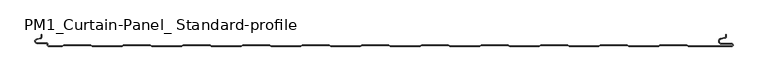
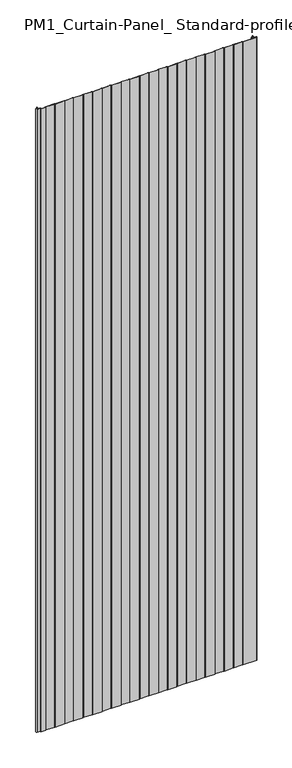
"""IFC4 building model written with IfcOpenShell, lengths in millimetres: plate geometry, PM1_Curtain-Panel_ Standard-profile : ACH_PM1_Acoustic-Sectioning-Panel_50M."""

from ifc_helpers import new_model, si_unit, frame, origin, place, context, project, spatial, polyline, circle_curve, source, transform, mapped, element, save
from ifc_brep_helpers import plane_surface, cylinder_surface, revolved_surface, advanced_brep


def pm1_curtain_panel_standard_profile_95d5dc12(model_context):
    return source(origin(), model_context, "Body", "AdvancedBrep", [
        advanced_brep(
        [(-562.4, -50.0, 3500.0), (-539.3999999, -50.0, 3500.0), (-536.8019223, -48.5, 3500.0), (-492.0019247, -48.5, 3500.0), (-489.4038471, -50.0, 3500.0), (-439.3999999, -50.0, 3500.0), (-436.8019223, -48.5, 3500.0), (-392.0019247, -48.5, 3500.0), (-389.4038471, -50.0, 3500.0), (-339.3999999, -50.0, 3500.0), (-336.8019223, -48.5, 3500.0), (-292.0019247, -48.5, 3500.0), (-289.4038471, -50.0, 3500.0), (-239.3999999, -50.0, 3500.0), (-236.8019223, -48.5, 3500.0), (-192.0019247, -48.5, 3500.0), (-189.4038471, -50.0, 3500.0), (-139.3999999, -50.0, 3500.0), (-136.8019223, -48.5, 3500.0), (-92.0019247, -48.5, 3500.0), (-89.4038471, -50.0, 3500.0), (-39.3999999, -50.0, 3500.0), (-36.8019223, -48.5, 3500.0), (7.9980753, -48.5, 3500.0), (10.5961529, -50.0, 3500.0), (60.6000001, -50.0, 3500.0), (63.1980777, -48.5, 3500.0), (107.9980753, -48.5, 3500.0), (110.5961529, -50.0, 3500.0), (160.6000001, -50.0, 3500.0), (163.1980777, -48.5, 3500.0), (207.9980753, -48.5, 3500.0), (210.5961529, -50.0, 3500.0), (260.6000001, -50.0, 3500.0), (263.1980777, -48.5, 3500.0), (307.9980753, -48.5, 3500.0), (310.5961529, -50.0, 3500.0), (360.6000001, -50.0, 3500.0), (363.1980777, -48.5, 3500.0), (407.9980753, -48.5, 3500.0), (410.5961529, -50.0, 3500.0), (460.6000001, -50.0, 3500.0), (463.1980777, -48.5, 3500.0), (507.9980753, -48.5, 3500.0), (510.5961529, -50.0, 3500.0), (583.1, -50.0, 3500.0), (585.6, -47.5, 3500.0), (583.1, -45.0, 3500.0), (566.1, -45.0, 3500.0), (565.4054075, -37.060769, 3500.0), (571.8514851, -35.924152, 3500.0), (574.0, -33.363652, 3500.0), (574.0, -30.0, 3500.0), (573.2, -30.0, 3500.0), (573.2, -33.363652, 3500.0), (571.7125666, -35.136306, 3500.0), (565.266489, -36.2729229, 3500.0), (566.1, -45.8, 3500.0), (583.1, -45.8, 3500.0), (583.1, -49.2, 3500.0), (510.8105122, -49.2, 3500.0), (508.2124346, -47.7, 3500.0), (462.9837184, -47.7, 3500.0), (460.3856408, -49.2, 3500.0), (410.8105122, -49.2, 3500.0), (408.2124346, -47.7, 3500.0), (362.9837184, -47.7, 3500.0), (360.3856408, -49.2, 3500.0), (310.8105122, -49.2, 3500.0), (308.2124346, -47.7, 3500.0), (262.9837184, -47.7, 3500.0), (260.3856408, -49.2, 3500.0), (210.8105122, -49.2, 3500.0), (208.2124346, -47.7, 3500.0), (162.9837184, -47.7, 3500.0), (160.3856408, -49.2, 3500.0), (110.8105122, -49.2, 3500.0), (108.2124346, -47.7, 3500.0), (62.9837184, -47.7, 3500.0), (60.3856408, -49.2, 3500.0), (10.8105122, -49.2, 3500.0), (8.2124346, -47.7, 3500.0), (-37.0162816, -47.7, 3500.0), (-39.6143592, -49.2, 3500.0), (-89.1894878, -49.2, 3500.0), (-91.7875654, -47.7, 3500.0), (-137.0162816, -47.7, 3500.0), (-139.6143592, -49.2, 3500.0), (-189.1894878, -49.2, 3500.0), (-191.7875654, -47.7, 3500.0), (-237.0162816, -47.7, 3500.0), (-239.6143592, -49.2, 3500.0), (-289.1894878, -49.2, 3500.0), (-291.7875654, -47.7, 3500.0), (-337.0162816, -47.7, 3500.0), (-339.6143592, -49.2, 3500.0), (-389.1894878, -49.2, 3500.0), (-391.7875654, -47.7, 3500.0), (-437.0162816, -47.7, 3500.0), (-439.6143592, -49.2, 3500.0), (-489.1894878, -49.2, 3500.0), (-491.7875654, -47.7, 3500.0), (-537.0162816, -47.7, 3500.0), (-539.6143592, -49.2, 3500.0), (-562.4, -49.2, 3500.0), (-563.6, -48.0, 3500.0), (-563.6, -46.6, 3500.0), (-566.4, -43.8, 3500.0), (-581.9, -43.8, 3500.0), (-582.529863, -38.2717638, 3500.0), (-576.370137, -36.849679, 3500.0), (-574.2, -34.121443, 3500.0), (-574.2, -30.0, 3500.0), (-575.0, -30.0, 3500.0), (-575.0, -34.121443, 3500.0), (-576.5500978, -36.0701831, 3500.0), (-582.7098239, -37.492268, 3500.0), (-581.9, -44.6, 3500.0), (-566.4, -44.6, 3500.0), (-564.4, -46.6, 3500.0), (-564.4, -48.0, 3500.0), (-562.4, -50.0, 0.0), (-564.4, -48.0, 0.0), (-564.4, -46.6, 0.0), (-566.4, -44.6, 0.0), (-581.9, -44.6, 0.0), (-582.7098239, -37.4922678, 0.0), (-576.5500979, -36.070183, 0.0), (-575.0, -34.121443, 0.0), (-575.0, -30.0, 0.0), (-574.2, -30.0, 0.0), (-574.2, -34.121443, 0.0), (-576.370137, -36.8496792, 0.0), (-582.529863, -38.271764, 0.0), (-581.9, -43.8, 0.0), (-566.4, -43.8, 0.0), (-563.6, -46.6, 0.0), (-563.6, -48.0, 0.0), (-562.4, -49.2, 0.0), (-539.6143592, -49.2, 0.0), (-537.0162816, -47.7, 0.0), (-491.7875654, -47.7, 0.0), (-489.1894878, -49.2, 0.0), (-439.6143592, -49.2, 0.0), (-437.0162816, -47.7, 0.0), (-391.7875654, -47.7, 0.0), (-389.1894878, -49.2, 0.0), (-339.6143592, -49.2, 0.0), (-337.0162816, -47.7, 0.0), (-291.7875654, -47.7, 0.0), (-289.1894878, -49.2, 0.0), (-239.6143592, -49.2, 0.0), (-237.0162816, -47.7, 0.0), (-191.7875654, -47.7, 0.0), (-189.1894878, -49.2, 0.0), (-139.6143592, -49.2, 0.0), (-137.0162816, -47.7, 0.0), (-91.7875654, -47.7, 0.0), (-89.1894878, -49.2, 0.0), (-39.6143592, -49.2, 0.0), (-37.0162816, -47.7, 0.0), (8.2124346, -47.7, 0.0), (10.8105122, -49.2, 0.0), (60.3856408, -49.2, 0.0), (62.9837184, -47.7, 0.0), (108.2124346, -47.7, 0.0), (110.8105122, -49.2, 0.0), (160.3856408, -49.2, 0.0), (162.9837184, -47.7, 0.0), (208.2124346, -47.7, 0.0), (210.8105122, -49.2, 0.0), (260.3856408, -49.2, 0.0), (262.9837184, -47.7, 0.0), (308.2124346, -47.7, 0.0), (310.8105122, -49.2, 0.0), (360.3856408, -49.2, 0.0), (362.9837184, -47.7, 0.0), (408.2124346, -47.7, 0.0), (410.8105122, -49.2, 0.0), (460.3856408, -49.2, 0.0), (462.9837184, -47.7, 0.0), (508.2124346, -47.7, 0.0), (510.8105122, -49.2, 0.0), (583.1, -49.2, 0.0), (583.1, -45.8, 0.0), (566.1, -45.8, 0.0), (565.266489, -36.2729227, 0.0), (571.7125666, -35.1363058, 0.0), (573.2, -33.363652, 0.0), (573.2, -30.0, 0.0), (574.0, -30.0, 0.0), (574.0, -33.363652, 0.0), (571.8514851, -35.9241522, 0.0), (565.4054075, -37.0607691, 0.0), (566.1, -45.0, 0.0), (583.1, -45.0, 0.0), (585.6, -47.5, 0.0), (583.1, -50.0, 0.0), (510.5961529, -50.0, 0.0), (507.9980753, -48.5, 0.0), (463.1980777, -48.5, 0.0), (460.6000001, -50.0, 0.0), (410.5961529, -50.0, 0.0), (407.9980753, -48.5, 0.0), (363.1980777, -48.5, 0.0), (360.6000001, -50.0, 0.0), (310.5961529, -50.0, 0.0), (307.9980753, -48.5, 0.0), (263.1980777, -48.5, 0.0), (260.6000001, -50.0, 0.0), (210.5961529, -50.0, 0.0), (207.9980753, -48.5, 0.0), (163.1980777, -48.5, 0.0), (160.6000001, -50.0, 0.0), (110.5961529, -50.0, 0.0), (107.9980753, -48.5, 0.0), (63.1980777, -48.5, 0.0), (60.6000001, -50.0, 0.0), (10.5961529, -50.0, 0.0), (7.9980753, -48.5, 0.0), (-36.8019223, -48.5, 0.0), (-39.3999999, -50.0, 0.0), (-89.4038471, -50.0, 0.0), (-92.0019247, -48.5, 0.0), (-136.8019223, -48.5, 0.0), (-139.3999999, -50.0, 0.0), (-189.4038471, -50.0, 0.0), (-192.0019247, -48.5, 0.0), (-236.8019223, -48.5, 0.0), (-239.3999999, -50.0, 0.0), (-289.4038471, -50.0, 0.0), (-292.0019247, -48.5, 0.0), (-336.8019223, -48.5, 0.0), (-339.3999999, -50.0, 0.0), (-389.4038471, -50.0, 0.0), (-392.0019247, -48.5, 0.0), (-436.8019223, -48.5, 0.0), (-439.3999999, -50.0, 0.0), (-489.4038471, -50.0, 0.0), (-492.0019247, -48.5, 0.0), (-536.8019223, -48.5, 0.0), (-539.3999999, -50.0, 0.0)],
        [
            (0, 1),
            (1, 2),
            (2, 3),
            (3, 4),
            (4, 5),
            (5, 6),
            (6, 7),
            (7, 8),
            (8, 9),
            (9, 10),
            (10, 11),
            (11, 12),
            (12, 13),
            (13, 14),
            (14, 15),
            (15, 16),
            (16, 17),
            (17, 18),
            (18, 19),
            (19, 20),
            (20, 21),
            (21, 22),
            (22, 23),
            (23, 24),
            (24, 25),
            (25, 26),
            (26, 27),
            (27, 28),
            (28, 29),
            (29, 30),
            (30, 31),
            (31, 32),
            (32, 33),
            (33, 34),
            (34, 35),
            (35, 36),
            (36, 37),
            (37, 38),
            (38, 39),
            (39, 40),
            (40, 41),
            (41, 42),
            (42, 43),
            (43, 44),
            (44, 45),
            (45, 46, circle_curve(frame((583.1, -47.5, 3500.0), z_axis=(0.0, 0.0, 1.0), x_axis=(1.0, 0.0, 0.0)), 2.5)),
            (46, 47, circle_curve(frame((583.1, -47.5, 3500.0), z_axis=(0.0, 0.0, 1.0), x_axis=(1.0, 0.0, 0.0)), 2.5)),
            (47, 48),
            (48, 49, circle_curve(frame((566.1, -41.0, 3500.0), z_axis=(0.0, 0.0, -1.0), x_axis=(1.0, 0.0, 0.0)), 4.0)),
            (49, 50),
            (50, 51, circle_curve(frame((571.4, -33.363652, 3500.0), z_axis=(0.0, 0.0, 1.0), x_axis=(1.0, 0.0, 0.0)), 2.6)),
            (51, 52),
            (52, 53),
            (53, 54),
            (54, 55, circle_curve(frame((571.4, -33.363652, 3500.0), z_axis=(0.0, 0.0, -1.0), x_axis=(1.0, 0.0, 0.0)), 1.8)),
            (55, 56),
            (56, 57, circle_curve(frame((566.1, -41.0, 3500.0), z_axis=(0.0, 0.0, 1.0), x_axis=(1.0, 0.0, 0.0)), 4.8)),
            (57, 58),
            (58, 59, circle_curve(frame((583.1, -47.5, 3500.0), z_axis=(0.0, 0.0, -1.0), x_axis=(1.0, 0.0, 0.0)), 1.7)),
            (59, 60),
            (60, 61),
            (61, 62),
            (62, 63),
            (63, 64),
            (64, 65),
            (65, 66),
            (66, 67),
            (67, 68),
            (68, 69),
            (69, 70),
            (70, 71),
            (71, 72),
            (72, 73),
            (73, 74),
            (74, 75),
            (75, 76),
            (76, 77),
            (77, 78),
            (78, 79),
            (79, 80),
            (80, 81),
            (81, 82),
            (82, 83),
            (83, 84),
            (84, 85),
            (85, 86),
            (86, 87),
            (87, 88),
            (88, 89),
            (89, 90),
            (90, 91),
            (91, 92),
            (92, 93),
            (93, 94),
            (94, 95),
            (95, 96),
            (96, 97),
            (97, 98),
            (98, 99),
            (99, 100),
            (100, 101),
            (101, 102),
            (102, 103),
            (103, 104),
            (104, 105, circle_curve(frame((-562.4, -48.0, 3500.0), z_axis=(0.0, 0.0, -1.0), x_axis=(1.0, 0.0, 0.0)), 1.2)),
            (105, 106),
            (106, 107, circle_curve(frame((-566.4, -46.6, 3500.0), z_axis=(0.0, 0.0, 1.0), x_axis=(1.0, 0.0, 0.0)), 2.8)),
            (107, 108),
            (108, 109, circle_curve(frame((-581.9, -41.0, 3500.0), z_axis=(0.0, 0.0, -1.0), x_axis=(1.0, 0.0, 0.0)), 2.8)),
            (109, 110),
            (110, 111, circle_curve(frame((-577.0, -34.121443, 3500.0), z_axis=(0.0, 0.0, 1.0), x_axis=(1.0, 0.0, 0.0)), 2.8)),
            (111, 112),
            (112, 113),
            (113, 114),
            (114, 115, circle_curve(frame((-577.0, -34.121443, 3500.0), z_axis=(0.0, 0.0, -1.0), x_axis=(1.0, 0.0, 0.0)), 2.0)),
            (115, 116),
            (116, 117, circle_curve(frame((-581.9, -41.0, 3500.0), z_axis=(0.0, 0.0, 1.0), x_axis=(1.0, 0.0, 0.0)), 3.6)),
            (117, 118),
            (118, 119, circle_curve(frame((-566.4, -46.6, 3500.0), z_axis=(0.0, 0.0, -1.0), x_axis=(1.0, 0.0, 0.0)), 2.0)),
            (119, 120),
            (120, 0, circle_curve(frame((-562.4, -48.0, 3500.0), z_axis=(0.0, 0.0, 1.0), x_axis=(1.0, 0.0, 0.0)), 2.0)),
            (121, 122, circle_curve(frame((-562.4, -48.0, 0.0), z_axis=(0.0, 0.0, -1.0), x_axis=(1.0, 0.0, 0.0)), 2.0)),
            (122, 123),
            (123, 124, circle_curve(frame((-566.4, -46.6, 0.0), z_axis=(0.0, 0.0, 1.0), x_axis=(1.0, 0.0, 0.0)), 2.0)),
            (124, 125),
            (125, 126, circle_curve(frame((-581.9, -41.0, 0.0), z_axis=(0.0, 0.0, -1.0), x_axis=(1.0, 0.0, 0.0)), 3.6)),
            (126, 127),
            (127, 128, circle_curve(frame((-577.0, -34.121443, 0.0), z_axis=(0.0, 0.0, 1.0), x_axis=(1.0, 0.0, 0.0)), 2.0)),
            (128, 129),
            (129, 130),
            (130, 131),
            (131, 132, circle_curve(frame((-577.0, -34.121443, 0.0), z_axis=(0.0, 0.0, -1.0), x_axis=(1.0, 0.0, 0.0)), 2.8)),
            (132, 133),
            (133, 134, circle_curve(frame((-581.9, -41.0, 0.0), z_axis=(0.0, 0.0, 1.0), x_axis=(1.0, 0.0, 0.0)), 2.8)),
            (134, 135),
            (135, 136, circle_curve(frame((-566.4, -46.6, 0.0), z_axis=(0.0, 0.0, -1.0), x_axis=(1.0, 0.0, 0.0)), 2.8)),
            (136, 137),
            (137, 138, circle_curve(frame((-562.4, -48.0, 0.0), z_axis=(0.0, 0.0, 1.0), x_axis=(1.0, 0.0, 0.0)), 1.2)),
            (138, 139),
            (139, 140),
            (140, 141),
            (141, 142),
            (142, 143),
            (143, 144),
            (144, 145),
            (145, 146),
            (146, 147),
            (147, 148),
            (148, 149),
            (149, 150),
            (150, 151),
            (151, 152),
            (152, 153),
            (153, 154),
            (154, 155),
            (155, 156),
            (156, 157),
            (157, 158),
            (158, 159),
            (159, 160),
            (160, 161),
            (161, 162),
            (162, 163),
            (163, 164),
            (164, 165),
            (165, 166),
            (166, 167),
            (167, 168),
            (168, 169),
            (169, 170),
            (170, 171),
            (171, 172),
            (172, 173),
            (173, 174),
            (174, 175),
            (175, 176),
            (176, 177),
            (177, 178),
            (178, 179),
            (179, 180),
            (180, 181),
            (181, 182),
            (182, 183),
            (183, 184, circle_curve(frame((583.1, -47.5, 0.0), z_axis=(0.0, 0.0, 1.0), x_axis=(1.0, 0.0, 0.0)), 1.7)),
            (184, 185),
            (185, 186, circle_curve(frame((566.1, -41.0, 0.0), z_axis=(0.0, 0.0, -1.0), x_axis=(1.0, 0.0, 0.0)), 4.8)),
            (186, 187),
            (187, 188, circle_curve(frame((571.4, -33.363652, 0.0), z_axis=(0.0, 0.0, 1.0), x_axis=(1.0, 0.0, 0.0)), 1.8)),
            (188, 189),
            (189, 190),
            (190, 191),
            (191, 192, circle_curve(frame((571.4, -33.363652, 0.0), z_axis=(0.0, 0.0, -1.0), x_axis=(1.0, 0.0, 0.0)), 2.6)),
            (192, 193),
            (193, 194, circle_curve(frame((566.1, -41.0, 0.0), z_axis=(0.0, 0.0, 1.0), x_axis=(1.0, 0.0, 0.0)), 4.0)),
            (194, 195),
            (195, 196, circle_curve(frame((583.1, -47.5, 0.0), z_axis=(0.0, 0.0, -1.0), x_axis=(1.0, 0.0, 0.0)), 2.5)),
            (196, 197, circle_curve(frame((583.1, -47.5, 0.0), z_axis=(0.0, 0.0, -1.0), x_axis=(1.0, 0.0, 0.0)), 2.5)),
            (197, 198),
            (198, 199),
            (199, 200),
            (200, 201),
            (201, 202),
            (202, 203),
            (203, 204),
            (204, 205),
            (205, 206),
            (206, 207),
            (207, 208),
            (208, 209),
            (209, 210),
            (210, 211),
            (211, 212),
            (212, 213),
            (213, 214),
            (214, 215),
            (215, 216),
            (216, 217),
            (217, 218),
            (218, 219),
            (219, 220),
            (220, 221),
            (221, 222),
            (222, 223),
            (223, 224),
            (224, 225),
            (225, 226),
            (226, 227),
            (227, 228),
            (228, 229),
            (229, 230),
            (230, 231),
            (231, 232),
            (232, 233),
            (233, 234),
            (234, 235),
            (235, 236),
            (236, 237),
            (237, 238),
            (238, 239),
            (239, 240),
            (240, 241),
            (241, 121),
            (0, 121),
            (241, 1),
            (240, 2),
            (239, 3),
            (238, 4),
            (237, 5),
            (236, 6),
            (235, 7),
            (234, 8),
            (233, 9),
            (232, 10),
            (231, 11),
            (230, 12),
            (229, 13),
            (228, 14),
            (227, 15),
            (226, 16),
            (225, 17),
            (224, 18),
            (223, 19),
            (222, 20),
            (221, 21),
            (220, 22),
            (219, 23),
            (218, 24),
            (217, 25),
            (216, 26),
            (215, 27),
            (214, 28),
            (213, 29),
            (212, 30),
            (211, 31),
            (210, 32),
            (209, 33),
            (208, 34),
            (207, 35),
            (206, 36),
            (205, 37),
            (204, 38),
            (203, 39),
            (202, 40),
            (201, 41),
            (200, 42),
            (199, 43),
            (198, 44),
            (197, 45),
            (195, 47),
            (194, 48),
            (193, 49),
            (192, 50),
            (191, 51),
            (190, 52),
            (189, 53),
            (188, 54),
            (187, 55),
            (186, 56),
            (185, 57),
            (184, 58),
            (183, 59),
            (182, 60),
            (181, 61),
            (180, 62),
            (179, 63),
            (178, 64),
            (177, 65),
            (176, 66),
            (175, 67),
            (174, 68),
            (173, 69),
            (172, 70),
            (171, 71),
            (170, 72),
            (169, 73),
            (168, 74),
            (167, 75),
            (166, 76),
            (165, 77),
            (164, 78),
            (163, 79),
            (162, 80),
            (161, 81),
            (160, 82),
            (159, 83),
            (158, 84),
            (157, 85),
            (156, 86),
            (155, 87),
            (154, 88),
            (153, 89),
            (152, 90),
            (151, 91),
            (150, 92),
            (149, 93),
            (148, 94),
            (147, 95),
            (146, 96),
            (145, 97),
            (144, 98),
            (143, 99),
            (142, 100),
            (141, 101),
            (140, 102),
            (139, 103),
            (138, 104),
            (137, 105),
            (136, 106),
            (135, 107),
            (134, 108),
            (133, 109),
            (132, 110),
            (131, 111),
            (130, 112),
            (129, 113),
            (128, 114),
            (127, 115),
            (126, 116),
            (125, 117),
            (124, 118),
            (123, 119),
            (122, 120),
        ],
        [
            plane_surface(frame((-575.0, -50.0, 3500.0), z_axis=(0.0, 0.0, 1.0), x_axis=(0.0, 1.0, 0.0))),
            plane_surface(frame((-575.0, -50.0, 0.0), z_axis=(0.0, 0.0, -1.0), x_axis=(0.0, 1.0, 0.0))),
            plane_surface(frame((-562.4, -50.0, 3500.0), z_axis=(0.0, -1.0, 0.0), x_axis=(0.0, 0.0, -1.0))),
            plane_surface(frame((-539.3999999, -50.0, 3500.0), z_axis=(0.49999979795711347, -0.8660255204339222, 0.0), x_axis=(0.0, 0.0, -1.0))),
            plane_surface(frame((-536.8019223, -48.5, 3500.0), z_axis=(0.0, -1.0, 0.0), x_axis=(0.0, 0.0, -1.0))),
            plane_surface(frame((-492.0019247, -48.5, 3500.0), z_axis=(-0.49999979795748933, -0.8660255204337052, 0.0), x_axis=(0.0, 0.0, -1.0))),
            plane_surface(frame((-489.4038471, -50.0, 3500.0), z_axis=(0.0, -1.0, 0.0), x_axis=(0.0, 0.0, -1.0))),
            plane_surface(frame((-439.3999999, -50.0, 3500.0), z_axis=(0.49999979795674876, -0.8660255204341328, 0.0), x_axis=(0.0, 0.0, -1.0))),
            plane_surface(frame((-436.8019223, -48.5, 3500.0), z_axis=(0.0, -1.0, 0.0), x_axis=(0.0, 0.0, -1.0))),
            plane_surface(frame((-392.0019247, -48.5, 3500.0), z_axis=(-0.4999997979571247, -0.8660255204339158, 0.0), x_axis=(0.0, 0.0, -1.0))),
            plane_surface(frame((-389.4038471, -50.0, 3500.0), z_axis=(0.0, -1.0, 0.0), x_axis=(0.0, 0.0, -1.0))),
            plane_surface(frame((-339.3999999, -50.0, 3500.0), z_axis=(0.49999979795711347, -0.8660255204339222, 0.0), x_axis=(0.0, 0.0, -1.0))),
            plane_surface(frame((-336.8019223, -48.5, 3500.0), z_axis=(0.0, -1.0, 0.0), x_axis=(0.0, 0.0, -1.0))),
            plane_surface(frame((-292.0019247, -48.5, 3500.0), z_axis=(-0.4999997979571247, -0.8660255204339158, 0.0), x_axis=(0.0, 0.0, -1.0))),
            plane_surface(frame((-289.4038471, -50.0, 3500.0), z_axis=(0.0, -1.0, 0.0), x_axis=(0.0, 0.0, -1.0))),
            plane_surface(frame((-239.3999999, -50.0, 3500.0), z_axis=(0.49999979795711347, -0.8660255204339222, 0.0), x_axis=(0.0, 0.0, -1.0))),
            plane_surface(frame((-236.8019223, -48.5, 3500.0), z_axis=(0.0, -1.0, 0.0), x_axis=(0.0, 0.0, -1.0))),
            plane_surface(frame((-192.0019247, -48.5, 3500.0), z_axis=(-0.49999979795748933, -0.8660255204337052, 0.0), x_axis=(0.0, 0.0, -1.0))),
            plane_surface(frame((-189.4038471, -50.0, 3500.0), z_axis=(0.0, -1.0, 0.0), x_axis=(0.0, 0.0, -1.0))),
            plane_surface(frame((-139.3999999, -50.0, 3500.0), z_axis=(0.49999979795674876, -0.8660255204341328, 0.0), x_axis=(0.0, 0.0, -1.0))),
            plane_surface(frame((-136.8019223, -48.5, 3500.0), z_axis=(0.0, -1.0, 0.0), x_axis=(0.0, 0.0, -1.0))),
            plane_surface(frame((-92.0019247, -48.5, 3500.0), z_axis=(-0.4999997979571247, -0.8660255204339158, 0.0), x_axis=(0.0, 0.0, -1.0))),
            plane_surface(frame((-89.4038471, -50.0, 3500.0), z_axis=(0.0, -1.0, 0.0), x_axis=(0.0, 0.0, -1.0))),
            plane_surface(frame((-39.3999999, -50.0, 3500.0), z_axis=(0.49999979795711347, -0.8660255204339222, 0.0), x_axis=(0.0, 0.0, -1.0))),
            plane_surface(frame((-36.8019223, -48.5, 3500.0), z_axis=(0.0, -1.0, 0.0), x_axis=(0.0, 0.0, -1.0))),
            plane_surface(frame((7.9980753, -48.5, 3500.0), z_axis=(-0.4999997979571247, -0.8660255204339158, 0.0), x_axis=(0.0, 0.0, -1.0))),
            plane_surface(frame((10.5961529, -50.0, 3500.0), z_axis=(0.0, -1.0, 0.0), x_axis=(0.0, 0.0, -1.0))),
            plane_surface(frame((60.6000001, -50.0, 3500.0), z_axis=(0.49999979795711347, -0.8660255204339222, 0.0), x_axis=(0.0, 0.0, -1.0))),
            plane_surface(frame((63.1980777, -48.5, 3500.0), z_axis=(0.0, -1.0, 0.0), x_axis=(0.0, 0.0, -1.0))),
            plane_surface(frame((107.9980753, -48.5, 3500.0), z_axis=(-0.49999979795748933, -0.8660255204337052, 0.0), x_axis=(0.0, 0.0, -1.0))),
            plane_surface(frame((110.5961529, -50.0, 3500.0), z_axis=(0.0, -1.0, 0.0), x_axis=(0.0, 0.0, -1.0))),
            plane_surface(frame((160.6000001, -50.0, 3500.0), z_axis=(0.49999979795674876, -0.8660255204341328, 0.0), x_axis=(0.0, 0.0, -1.0))),
            plane_surface(frame((163.1980777, -48.5, 3500.0), z_axis=(0.0, -1.0, 0.0), x_axis=(0.0, 0.0, -1.0))),
            plane_surface(frame((207.9980753, -48.5, 3500.0), z_axis=(-0.4999997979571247, -0.8660255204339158, 0.0), x_axis=(0.0, 0.0, -1.0))),
            plane_surface(frame((210.5961529, -50.0, 3500.0), z_axis=(0.0, -1.0, 0.0), x_axis=(0.0, 0.0, -1.0))),
            plane_surface(frame((260.6000001, -50.0, 3500.0), z_axis=(0.49999979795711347, -0.8660255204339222, 0.0), x_axis=(0.0, 0.0, -1.0))),
            plane_surface(frame((263.1980777, -48.5, 3500.0), z_axis=(0.0, -1.0, 0.0), x_axis=(0.0, 0.0, -1.0))),
            plane_surface(frame((307.9980753, -48.5, 3500.0), z_axis=(-0.4999997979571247, -0.8660255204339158, 0.0), x_axis=(0.0, 0.0, -1.0))),
            plane_surface(frame((310.5961529, -50.0, 3500.0), z_axis=(0.0, -1.0, 0.0), x_axis=(0.0, 0.0, -1.0))),
            plane_surface(frame((360.6000001, -50.0, 3500.0), z_axis=(0.49999979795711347, -0.8660255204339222, 0.0), x_axis=(0.0, 0.0, -1.0))),
            plane_surface(frame((363.1980777, -48.5, 3500.0), z_axis=(0.0, -1.0, 0.0), x_axis=(0.0, 0.0, -1.0))),
            plane_surface(frame((407.9980753, -48.5, 3500.0), z_axis=(-0.49999979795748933, -0.8660255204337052, 0.0), x_axis=(0.0, 0.0, -1.0))),
            plane_surface(frame((410.5961529, -50.0, 3500.0), z_axis=(0.0, -1.0, 0.0), x_axis=(0.0, 0.0, -1.0))),
            plane_surface(frame((460.6000001, -50.0, 3500.0), z_axis=(0.49999979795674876, -0.8660255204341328, 0.0), x_axis=(0.0, 0.0, -1.0))),
            plane_surface(frame((463.1980777, -48.5, 3500.0), z_axis=(0.0, -1.0, 0.0), x_axis=(0.0, 0.0, -1.0))),
            plane_surface(frame((507.9980753, -48.5, 3500.0), z_axis=(-0.4999997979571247, -0.8660255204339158, 0.0), x_axis=(0.0, 0.0, -1.0))),
            plane_surface(frame((560.890897, -50.0, 3500.0), z_axis=(0.0, -1.0, 0.0), x_axis=(0.0, 0.0, -1.0))),
            cylinder_surface(frame((583.1, -47.5, 3500.0), z_axis=(0.0, 0.0, 1.0), x_axis=(1.0, 0.0, 0.0)), 2.5),
            plane_surface(frame((583.1, -45.0, 3500.0), z_axis=(0.0, 1.0, 0.0), x_axis=(0.0, 0.0, -1.0))),
            revolved_surface(polyline([(570.1, -41.0, 0.0), (570.1, -41.0, 3500.0)]), (566.1, -41.0, 3500.0), (0.0, 0.0, -1.0)),
            plane_surface(frame((565.4054075, -37.0607691, 3500.0), z_axis=(0.17364813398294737, -0.9848077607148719, 0.0), x_axis=(0.0, 0.0, -1.0))),
            cylinder_surface(frame((571.4, -33.363652, 3500.0), z_axis=(0.0, 0.0, 1.0), x_axis=(1.0, 0.0, 0.0)), 2.6),
            plane_surface(frame((574.0, -33.363652, 3500.0), z_axis=(1.0, 0.0, 0.0), x_axis=(0.0, 0.0, -1.0))),
            plane_surface(frame((574.0, -30.0, 3500.0), z_axis=(0.0, 1.0, 0.0), x_axis=(0.0, 0.0, -1.0))),
            plane_surface(frame((573.2, -30.0, 3500.0), z_axis=(-1.0, 0.0, 0.0), x_axis=(0.0, 0.0, -1.0))),
            revolved_surface(polyline([(573.1999999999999, -33.363652, 0.0), (573.1999999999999, -33.363652, 3500.0)]), (571.4, -33.363652, 3500.0), (0.0, 0.0, -1.0)),
            plane_surface(frame((571.7125666, -35.1363058, 3500.0), z_axis=(-0.17364813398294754, 0.9848077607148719, 0.0), x_axis=(0.0, 0.0, -1.0))),
            cylinder_surface(frame((566.1, -41.0, 3500.0), z_axis=(0.0, 0.0, 1.0), x_axis=(1.0, 0.0, 0.0)), 4.8),
            plane_surface(frame((566.1, -45.8, 3500.0), z_axis=(0.0, -1.0, 0.0), x_axis=(0.0, 0.0, -1.0))),
            revolved_surface(polyline([(584.8000000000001, -47.5, 0.0), (584.8000000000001, -47.5, 3500.0)]), (583.1, -47.5, 3500.0), (0.0, 0.0, -1.0)),
            plane_surface(frame((560.890897, -49.2, 3500.0), z_axis=(0.0, 1.0, 0.0), x_axis=(0.0, 0.0, -1.0))),
            plane_surface(frame((510.8105122, -49.2, 3500.0), z_axis=(0.49999979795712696, 0.8660255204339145, 0.0), x_axis=(0.0, 0.0, -1.0))),
            plane_surface(frame((508.2124346, -47.7, 3500.0), z_axis=(0.0, 1.0, 0.0), x_axis=(0.0, 0.0, -1.0))),
            plane_surface(frame((462.9837184, -47.7, 3500.0), z_axis=(-0.4999997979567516, 0.8660255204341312, 0.0), x_axis=(0.0, 0.0, -1.0))),
            plane_surface(frame((460.3856408, -49.2, 3500.0), z_axis=(0.0, 1.0, 0.0), x_axis=(0.0, 0.0, -1.0))),
            plane_surface(frame((410.8105122, -49.2, 3500.0), z_axis=(0.4999997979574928, 0.8660255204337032, 0.0), x_axis=(0.0, 0.0, -1.0))),
            plane_surface(frame((408.2124346, -47.7, 3500.0), z_axis=(0.0, 1.0, 0.0), x_axis=(0.0, 0.0, -1.0))),
            plane_surface(frame((362.9837184, -47.7, 3500.0), z_axis=(-0.49999979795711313, 0.8660255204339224, 0.0), x_axis=(0.0, 0.0, -1.0))),
            plane_surface(frame((360.3856408, -49.2, 3500.0), z_axis=(0.0, 1.0, 0.0), x_axis=(0.0, 0.0, -1.0))),
            plane_surface(frame((310.8105122, -49.2, 3500.0), z_axis=(0.4999997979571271, 0.8660255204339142, 0.0), x_axis=(0.0, 0.0, -1.0))),
            plane_surface(frame((308.2124346, -47.7, 3500.0), z_axis=(0.0, 1.0, 0.0), x_axis=(0.0, 0.0, -1.0))),
            plane_surface(frame((262.9837184, -47.7, 3500.0), z_axis=(-0.49999979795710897, 0.8660255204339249, 0.0), x_axis=(0.0, 0.0, -1.0))),
            plane_surface(frame((260.3856408, -49.2, 3500.0), z_axis=(0.0, 1.0, 0.0), x_axis=(0.0, 0.0, -1.0))),
            plane_surface(frame((210.8105122, -49.2, 3500.0), z_axis=(0.4999997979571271, 0.8660255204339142, 0.0), x_axis=(0.0, 0.0, -1.0))),
            plane_surface(frame((208.2124346, -47.7, 3500.0), z_axis=(0.0, 1.0, 0.0), x_axis=(0.0, 0.0, -1.0))),
            plane_surface(frame((162.9837184, -47.7, 3500.0), z_axis=(-0.4999997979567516, 0.8660255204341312, 0.0), x_axis=(0.0, 0.0, -1.0))),
            plane_surface(frame((160.3856408, -49.2, 3500.0), z_axis=(0.0, 1.0, 0.0), x_axis=(0.0, 0.0, -1.0))),
            plane_surface(frame((110.8105122, -49.2, 3500.0), z_axis=(0.49999979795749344, 0.8660255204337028, 0.0), x_axis=(0.0, 0.0, -1.0))),
            plane_surface(frame((108.2124346, -47.7, 3500.0), z_axis=(0.0, 1.0, 0.0), x_axis=(0.0, 0.0, -1.0))),
            plane_surface(frame((62.9837184, -47.7, 3500.0), z_axis=(-0.49999979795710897, 0.8660255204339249, 0.0), x_axis=(0.0, 0.0, -1.0))),
            plane_surface(frame((60.3856408, -49.2, 3500.0), z_axis=(0.0, 1.0, 0.0), x_axis=(0.0, 0.0, -1.0))),
            plane_surface(frame((10.8105122, -49.2, 3500.0), z_axis=(0.4999997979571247, 0.8660255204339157, 0.0), x_axis=(0.0, 0.0, -1.0))),
            plane_surface(frame((8.2124346, -47.7, 3500.0), z_axis=(0.0, 1.0, 0.0), x_axis=(0.0, 0.0, -1.0))),
            plane_surface(frame((-37.0162816, -47.7, 3500.0), z_axis=(-0.49999979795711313, 0.8660255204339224, 0.0), x_axis=(0.0, 0.0, -1.0))),
            plane_surface(frame((-39.6143592, -49.2, 3500.0), z_axis=(0.0, 1.0, 0.0), x_axis=(0.0, 0.0, -1.0))),
            plane_surface(frame((-89.1894878, -49.2, 3500.0), z_axis=(0.4999997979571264, 0.8660255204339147, 0.0), x_axis=(0.0, 0.0, -1.0))),
            plane_surface(frame((-91.7875654, -47.7, 3500.0), z_axis=(0.0, 1.0, 0.0), x_axis=(0.0, 0.0, -1.0))),
            plane_surface(frame((-137.0162816, -47.7, 3500.0), z_axis=(-0.49999979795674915, 0.8660255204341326, 0.0), x_axis=(0.0, 0.0, -1.0))),
            plane_surface(frame((-139.6143592, -49.2, 3500.0), z_axis=(0.0, 1.0, 0.0), x_axis=(0.0, 0.0, -1.0))),
            plane_surface(frame((-189.1894878, -49.2, 3500.0), z_axis=(0.49999979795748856, 0.8660255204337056, 0.0), x_axis=(0.0, 0.0, -1.0))),
            plane_surface(frame((-191.7875654, -47.7, 3500.0), z_axis=(0.0, 1.0, 0.0), x_axis=(0.0, 0.0, -1.0))),
            plane_surface(frame((-237.0162816, -47.7, 3500.0), z_axis=(-0.4999997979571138, 0.866025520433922, 0.0), x_axis=(0.0, 0.0, -1.0))),
            plane_surface(frame((-239.6143592, -49.2, 3500.0), z_axis=(0.0, 1.0, 0.0), x_axis=(0.0, 0.0, -1.0))),
            plane_surface(frame((-289.1894878, -49.2, 3500.0), z_axis=(0.49999979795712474, 0.8660255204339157, 0.0), x_axis=(0.0, 0.0, -1.0))),
            plane_surface(frame((-291.7875654, -47.7, 3500.0), z_axis=(0.0, 1.0, 0.0), x_axis=(0.0, 0.0, -1.0))),
            plane_surface(frame((-337.0162816, -47.7, 3500.0), z_axis=(-0.49999979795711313, 0.8660255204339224, 0.0), x_axis=(0.0, 0.0, -1.0))),
            plane_surface(frame((-339.6143592, -49.2, 3500.0), z_axis=(0.0, 1.0, 0.0), x_axis=(0.0, 0.0, -1.0))),
            plane_surface(frame((-389.1894878, -49.2, 3500.0), z_axis=(0.49999979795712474, 0.8660255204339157, 0.0), x_axis=(0.0, 0.0, -1.0))),
            plane_surface(frame((-391.7875654, -47.7, 3500.0), z_axis=(0.0, 1.0, 0.0), x_axis=(0.0, 0.0, -1.0))),
            plane_surface(frame((-437.0162816, -47.7, 3500.0), z_axis=(-0.49999979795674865, 0.8660255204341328, 0.0), x_axis=(0.0, 0.0, -1.0))),
            plane_surface(frame((-439.6143592, -49.2, 3500.0), z_axis=(0.0, 1.0, 0.0), x_axis=(0.0, 0.0, -1.0))),
            plane_surface(frame((-489.1894878, -49.2, 3500.0), z_axis=(0.49999979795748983, 0.866025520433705, 0.0), x_axis=(0.0, 0.0, -1.0))),
            plane_surface(frame((-491.7875654, -47.7, 3500.0), z_axis=(0.0, 1.0, 0.0), x_axis=(0.0, 0.0, -1.0))),
            plane_surface(frame((-537.0162816, -47.7, 3500.0), z_axis=(-0.49999979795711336, 0.8660255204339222, 0.0), x_axis=(0.0, 0.0, -1.0))),
            plane_surface(frame((-539.6143592, -49.2, 3500.0), z_axis=(0.0, 1.0, 0.0), x_axis=(0.0, 0.0, -1.0))),
            revolved_surface(polyline([(-561.1999999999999, -48.0, 0.0), (-561.1999999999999, -48.0, 3500.0)]), (-562.4, -48.0, 3500.0), (0.0, 0.0, -1.0)),
            plane_surface(frame((-563.6, -48.0, 3500.0), z_axis=(1.0, 0.0, 0.0), x_axis=(0.0, 0.0, -1.0))),
            cylinder_surface(frame((-566.4, -46.6, 3500.0), z_axis=(0.0, 0.0, 1.0), x_axis=(1.0, 0.0, 0.0)), 2.8),
            plane_surface(frame((-566.4, -43.8, 3500.0), z_axis=(0.0, 1.0, 0.0), x_axis=(0.0, 0.0, -1.0))),
            revolved_surface(polyline([(-579.1, -41.0, 0.0), (-579.1, -41.0, 3500.0)]), (-581.9, -41.0, 3500.0), (0.0, 0.0, -1.0)),
            plane_surface(frame((-582.529863, -38.271764, 3500.0), z_axis=(0.2249510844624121, -0.9743700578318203, 0.0), x_axis=(0.0, 0.0, -1.0))),
            cylinder_surface(frame((-577.0, -34.121443, 3500.0), z_axis=(0.0, 0.0, 1.0), x_axis=(1.0, 0.0, 0.0)), 2.8),
            plane_surface(frame((-574.2, -34.121443, 3500.0), z_axis=(1.0, 0.0, 0.0), x_axis=(0.0, 0.0, -1.0))),
            plane_surface(frame((-574.2, -30.0, 3500.0), z_axis=(0.0, 1.0, 0.0), x_axis=(0.0, 0.0, -1.0))),
            plane_surface(frame((-575.0, -30.0, 3500.0), z_axis=(-1.0, 0.0, 0.0), x_axis=(0.0, 0.0, -1.0))),
            revolved_surface(polyline([(-575.0, -34.121443, 0.0), (-575.0, -34.121443, 3500.0)]), (-577.0, -34.121443, 3500.0), (0.0, 0.0, -1.0)),
            plane_surface(frame((-576.5500979, -36.070183, 3500.0), z_axis=(-0.22495108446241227, 0.9743700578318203, 0.0), x_axis=(0.0, 0.0, -1.0))),
            cylinder_surface(frame((-581.9, -41.0, 3500.0), z_axis=(0.0, 0.0, 1.0), x_axis=(1.0, 0.0, 0.0)), 3.6),
            plane_surface(frame((-581.9, -44.6, 3500.0), z_axis=(0.0, -1.0, 0.0), x_axis=(0.0, 0.0, -1.0))),
            revolved_surface(polyline([(-564.4, -46.6, 0.0), (-564.4, -46.6, 3500.0)]), (-566.4, -46.6, 3500.0), (0.0, 0.0, -1.0)),
            plane_surface(frame((-564.4, -46.6, 3500.0), z_axis=(-1.0, 0.0, 0.0), x_axis=(0.0, 0.0, -1.0))),
            cylinder_surface(frame((-562.4, -48.0, 3500.0), z_axis=(0.0, 0.0, 1.0), x_axis=(1.0, 0.0, 0.0)), 2.0),
        ],
        [
            (0, [[1, 2, 3, 4, 5, 6, 7, 8, 9, 10, 11, 12, 13, 14, 15, 16, 17, 18, 19, 20, 21, 22, 23, 24, 25, 26, 27, 28, 29, 30, 31, 32, 33, 34, 35, 36, 37, 38, 39, 40, 41, 42, 43, 44, 45, 46, 47, 48, 49, 50, 51, 52, 53, 54, 55, 56, 57, 58, 59, 60, 61, 62, 63, 64, 65, 66, 67, 68, 69, 70, 71, 72, 73, 74, 75, 76, 77, 78, 79, 80, 81, 82, 83, 84, 85, 86, 87, 88, 89, 90, 91, 92, 93, 94, 95, 96, 97, 98, 99, 100, 101, 102, 103, 104, 105, 106, 107, 108, 109, 110, 111, 112, 113, 114, 115, 116, 117, 118, 119, 120, 121]]),
            (1, [[122, 123, 124, 125, 126, 127, 128, 129, 130, 131, 132, 133, 134, 135, 136, 137, 138, 139, 140, 141, 142, 143, 144, 145, 146, 147, 148, 149, 150, 151, 152, 153, 154, 155, 156, 157, 158, 159, 160, 161, 162, 163, 164, 165, 166, 167, 168, 169, 170, 171, 172, 173, 174, 175, 176, 177, 178, 179, 180, 181, 182, 183, 184, 185, 186, 187, 188, 189, 190, 191, 192, 193, 194, 195, 196, 197, 198, 199, 200, 201, 202, 203, 204, 205, 206, 207, 208, 209, 210, 211, 212, 213, 214, 215, 216, 217, 218, 219, 220, 221, 222, 223, 224, 225, 226, 227, 228, 229, 230, 231, 232, 233, 234, 235, 236, 237, 238, 239, 240, 241, 242]]),
            (2, [[-1, 243, -242, 244]]),
            (3, [[-2, -244, -241, 245]]),
            (4, [[-3, -245, -240, 246]]),
            (5, [[-4, -246, -239, 247]]),
            (6, [[-5, -247, -238, 248]]),
            (7, [[-6, -248, -237, 249]]),
            (8, [[-7, -249, -236, 250]]),
            (9, [[-8, -250, -235, 251]]),
            (10, [[-9, -251, -234, 252]]),
            (11, [[-10, -252, -233, 253]]),
            (12, [[-11, -253, -232, 254]]),
            (13, [[-12, -254, -231, 255]]),
            (14, [[-13, -255, -230, 256]]),
            (15, [[-14, -256, -229, 257]]),
            (16, [[-15, -257, -228, 258]]),
            (17, [[-16, -258, -227, 259]]),
            (18, [[-17, -259, -226, 260]]),
            (19, [[-18, -260, -225, 261]]),
            (20, [[-19, -261, -224, 262]]),
            (21, [[-20, -262, -223, 263]]),
            (22, [[-21, -263, -222, 264]]),
            (23, [[-22, -264, -221, 265]]),
            (24, [[-23, -265, -220, 266]]),
            (25, [[-24, -266, -219, 267]]),
            (26, [[-25, -267, -218, 268]]),
            (27, [[-26, -268, -217, 269]]),
            (28, [[-27, -269, -216, 270]]),
            (29, [[-28, -270, -215, 271]]),
            (30, [[-29, -271, -214, 272]]),
            (31, [[-30, -272, -213, 273]]),
            (32, [[-31, -273, -212, 274]]),
            (33, [[-32, -274, -211, 275]]),
            (34, [[-33, -275, -210, 276]]),
            (35, [[-34, -276, -209, 277]]),
            (36, [[-35, -277, -208, 278]]),
            (37, [[-36, -278, -207, 279]]),
            (38, [[-37, -279, -206, 280]]),
            (39, [[-38, -280, -205, 281]]),
            (40, [[-39, -281, -204, 282]]),
            (41, [[-40, -282, -203, 283]]),
            (42, [[-41, -283, -202, 284]]),
            (43, [[-42, -284, -201, 285]]),
            (44, [[-43, -285, -200, 286]]),
            (45, [[-44, -286, -199, 287]]),
            (46, [[-45, -287, -198, 288]]),
            (47, [[-288, -197, -196, 289, -47, -46]]),
            (48, [[-48, -289, -195, 290]]),
            (49, [[-49, -290, -194, 291]]),
            (50, [[-50, -291, -193, 292]]),
            (51, [[-51, -292, -192, 293]]),
            (52, [[-52, -293, -191, 294]]),
            (53, [[-53, -294, -190, 295]]),
            (54, [[-54, -295, -189, 296]]),
            (55, [[-55, -296, -188, 297]]),
            (56, [[-56, -297, -187, 298]]),
            (57, [[-57, -298, -186, 299]]),
            (58, [[-58, -299, -185, 300]]),
            (59, [[-59, -300, -184, 301]]),
            (60, [[-60, -301, -183, 302]]),
            (61, [[-61, -302, -182, 303]]),
            (62, [[-62, -303, -181, 304]]),
            (63, [[-63, -304, -180, 305]]),
            (64, [[-64, -305, -179, 306]]),
            (65, [[-65, -306, -178, 307]]),
            (66, [[-66, -307, -177, 308]]),
            (67, [[-67, -308, -176, 309]]),
            (68, [[-68, -309, -175, 310]]),
            (69, [[-69, -310, -174, 311]]),
            (70, [[-70, -311, -173, 312]]),
            (71, [[-71, -312, -172, 313]]),
            (72, [[-72, -313, -171, 314]]),
            (73, [[-73, -314, -170, 315]]),
            (74, [[-74, -315, -169, 316]]),
            (75, [[-75, -316, -168, 317]]),
            (76, [[-76, -317, -167, 318]]),
            (77, [[-77, -318, -166, 319]]),
            (78, [[-78, -319, -165, 320]]),
            (79, [[-79, -320, -164, 321]]),
            (80, [[-80, -321, -163, 322]]),
            (81, [[-81, -322, -162, 323]]),
            (82, [[-82, -323, -161, 324]]),
            (83, [[-83, -324, -160, 325]]),
            (84, [[-84, -325, -159, 326]]),
            (85, [[-85, -326, -158, 327]]),
            (86, [[-86, -327, -157, 328]]),
            (87, [[-87, -328, -156, 329]]),
            (88, [[-88, -329, -155, 330]]),
            (89, [[-89, -330, -154, 331]]),
            (90, [[-90, -331, -153, 332]]),
            (91, [[-91, -332, -152, 333]]),
            (92, [[-92, -333, -151, 334]]),
            (93, [[-93, -334, -150, 335]]),
            (94, [[-94, -335, -149, 336]]),
            (95, [[-95, -336, -148, 337]]),
            (96, [[-96, -337, -147, 338]]),
            (97, [[-97, -338, -146, 339]]),
            (98, [[-98, -339, -145, 340]]),
            (99, [[-99, -340, -144, 341]]),
            (100, [[-100, -341, -143, 342]]),
            (101, [[-101, -342, -142, 343]]),
            (102, [[-102, -343, -141, 344]]),
            (103, [[-103, -344, -140, 345]]),
            (104, [[-104, -345, -139, 346]]),
            (105, [[-105, -346, -138, 347]]),
            (106, [[-106, -347, -137, 348]]),
            (107, [[-107, -348, -136, 349]]),
            (108, [[-108, -349, -135, 350]]),
            (109, [[-109, -350, -134, 351]]),
            (110, [[-110, -351, -133, 352]]),
            (111, [[-111, -352, -132, 353]]),
            (112, [[-112, -353, -131, 354]]),
            (113, [[-113, -354, -130, 355]]),
            (114, [[-114, -355, -129, 356]]),
            (115, [[-115, -356, -128, 357]]),
            (116, [[-116, -357, -127, 358]]),
            (117, [[-117, -358, -126, 359]]),
            (118, [[-118, -359, -125, 360]]),
            (119, [[-119, -360, -124, 361]]),
            (120, [[-120, -361, -123, 362]]),
            (121, [[-121, -362, -122, -243]]),
        ],
    ),
    ])


if __name__ == "__main__":
    model = new_model("IFC4")
    model_context = context("Model", 3, world=origin())
    ifc_project = project(units=[si_unit("LENGTHUNIT", "METRE", prefix="MILLI")], contexts=[model_context])
    site = spatial("IfcSite", under=ifc_project)
    building = spatial("IfcBuilding", under=site)
    placement = place(None, origin())
    pm1_curtain_panel_standard_profile_shape = pm1_curtain_panel_standard_profile_95d5dc12(model_context)
    element("IfcPlate", 1, ObjectType="PM1_Curtain-Panel_ Standard-profile : ACH_PM1_Acoustic-Sectioning-Panel_50M", at=placement, inside=building, context=model_context, shape_type="MappedRepresentation", body=[
        mapped(pm1_curtain_panel_standard_profile_shape, transform((0.0, 0.0, 0.0), x_axis=(1.0, 0.0, 0.0), y_axis=(0.0, 1.0, 0.0), z_axis=(0.0, 0.0, 1.0))),
    ])
    save(model, "model.ifc")
